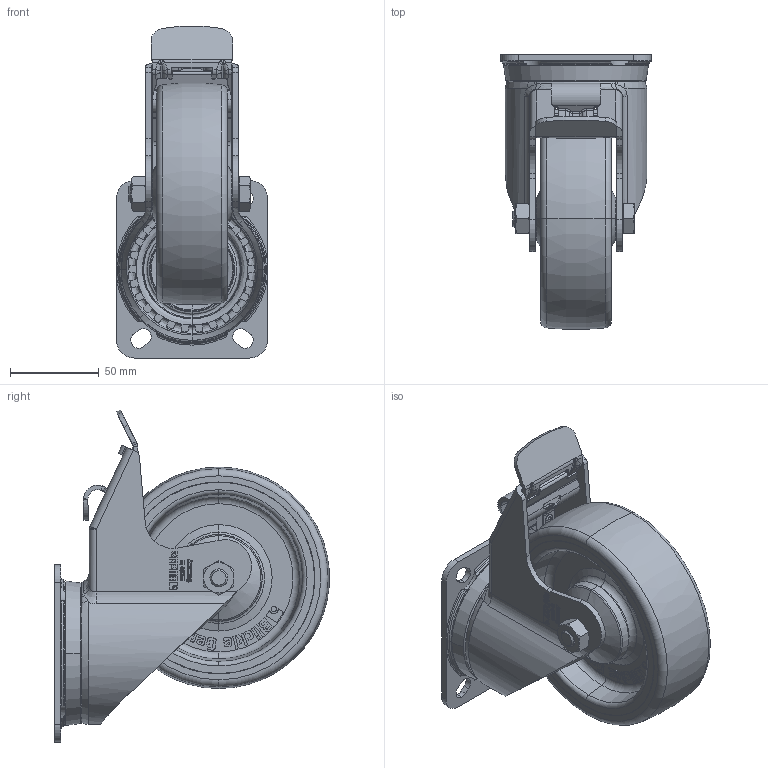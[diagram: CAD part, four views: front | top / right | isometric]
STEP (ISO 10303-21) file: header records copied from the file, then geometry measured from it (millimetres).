
FILE_DESCRIPTION (( 'STEP AP214' ), '1' );
FILE_NAME ('LK-POTH_125K-1-FI_614800-214.step', '2022-01-11T14:09:13', ( '' ), ( '' ), 'SwSTEP 2.0', 'SolidWorks 2018', '' );
FILE_SCHEMA (( 'AUTOMOTIVE_DESIGN' ));
Length unit declared in the file: millimetre
Products named in the file (5): LK-POTH_125K-1-FI_614800-214; GH-LK_125_GH-LK-125x45-01-FIH_10x46; POTH_125_10K_G16_3D; POTH_3D_G16_POTH_125_10K_558742; GH-LK-125x45-01-FIH_10x46_G16_3D
Assembly tree (4 placements, depth 3):
  LK-POTH_125K-1-FI_614800-214
    GH-LK_125_GH-LK-125x45-01-FIH_10x46
      GH-LK-125x45-01-FIH_10x46_G16_3D
    POTH_3D_G16_POTH_125_10K_558742
      POTH_125_10K_G16_3D
Bounding box: 85 x 154.74 x 187.06 mm (x, y, z)
Volume: 446110.5 mm3; surface area: 151108.1 mm2
Topology: 2 solids, 7 shells, 3032 faces, 8160 edges, 5295 vertices
Faces by surface type: plane 1266, bspline 1081, cylinder 466, cone 113, torus 106
Entity records: 118305 total; most frequent: CARTESIAN_POINT 44942, ORIENTED_EDGE 16280, DIRECTION 11167, EDGE_CURVE 8140, VERTEX_POINT 5295, LINE 4497, VECTOR 4497, AXIS2_PLACEMENT_3D 3335
